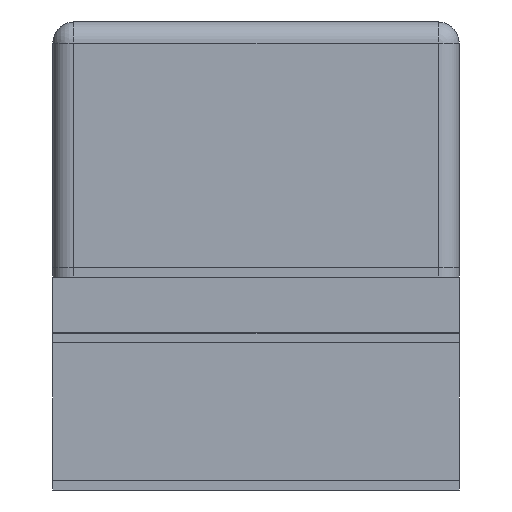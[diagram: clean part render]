
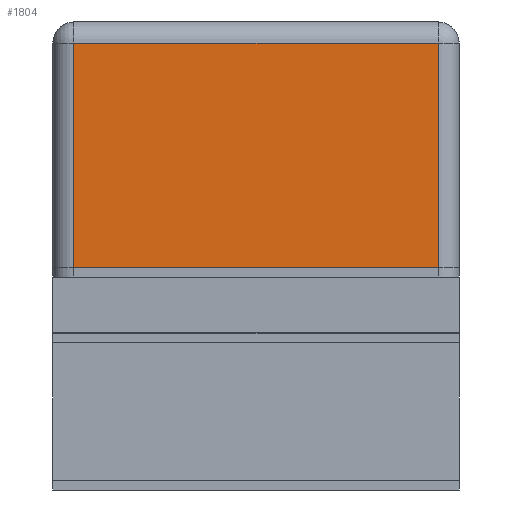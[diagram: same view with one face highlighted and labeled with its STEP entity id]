
A CAD part, left-side view. The second image highlights one B-rep face of the part: STEP entity #1804.
In plain terms, the highlighted planar face has unit normal (-1, 0, 0) as drawn and (1, 0, 0) by its records, which use the part's own axes.
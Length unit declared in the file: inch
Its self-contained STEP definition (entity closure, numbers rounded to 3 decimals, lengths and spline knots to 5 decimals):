
#1015 = VECTOR ( 'NONE', #30942, 39.37008 ) ;
#1804 = ADVANCED_FACE ( 'NONE', ( #12965 ), #29227, .F. ) ;
#1833 = CARTESIAN_POINT ( 'NONE',  ( 0.05709, -0.10236, 0.1378 ) ) ;
#2458 = VECTOR ( 'NONE', #27485, 39.37008 ) ;
#3188 = VECTOR ( 'NONE', #12791, 39.37008 ) ;
#3747 = EDGE_CURVE ( 'NONE', #30617, #38112, #41099, .T. ) ;
#4954 = DIRECTION ( 'NONE',  ( 0., 1., 0. ) ) ;
#6616 = ORIENTED_EDGE ( 'NONE', *, *, #25708, .T. ) ;
#7510 = ORIENTED_EDGE ( 'NONE', *, *, #17533, .T. ) ;
#8935 = DIRECTION ( 'NONE',  ( -1., 0., 0. ) ) ;
#9727 = EDGE_CURVE ( 'NONE', #27692, #50580, #29738, .T. ) ;
#10558 = ORIENTED_EDGE ( 'NONE', *, *, #9727, .T. ) ;
#10803 = CARTESIAN_POINT ( 'NONE',  ( 0.05709, -0.10236, 0. ) ) ;
#11202 = CARTESIAN_POINT ( 'NONE',  ( 0.05709, 0.10236, 0.1378 ) ) ;
#12276 = CARTESIAN_POINT ( 'NONE',  ( 0.05709, 0.11417, 0. ) ) ;
#12791 = DIRECTION ( 'NONE',  ( 0., 1., 0. ) ) ;
#12965 = FACE_OUTER_BOUND ( 'NONE', #37003, .T. ) ;
#14707 = LINE ( 'NONE', #1833, #1015 ) ;
#17533 = EDGE_CURVE ( 'NONE', #38112, #27692, #47866, .T. ) ;
#19514 = ORIENTED_EDGE ( 'NONE', *, *, #3747, .T. ) ;
#25708 = EDGE_CURVE ( 'NONE', #50580, #30617, #14707, .T. ) ;
#27485 = DIRECTION ( 'NONE',  ( 0., 0., 1. ) ) ;
#27692 = VERTEX_POINT ( 'NONE', #36786 ) ;
#29227 = PLANE ( 'NONE',  #35397 ) ;
#29738 = LINE ( 'NONE', #49874, #39536 ) ;
#30617 = VERTEX_POINT ( 'NONE', #10803 ) ;
#30942 = DIRECTION ( 'NONE',  ( 0., 0., -1. ) ) ;
#35397 = AXIS2_PLACEMENT_3D ( 'NONE', #45580, #8935, #4954 ) ;
#36786 = CARTESIAN_POINT ( 'NONE',  ( 0.05709, 0.10236, 0.12598 ) ) ;
#37003 = EDGE_LOOP ( 'NONE', ( #19514, #7510, #10558, #6616 ) ) ;
#38112 = VERTEX_POINT ( 'NONE', #38604 ) ;
#38528 = CARTESIAN_POINT ( 'NONE',  ( 0.05709, -0.10236, 0.12598 ) ) ;
#38604 = CARTESIAN_POINT ( 'NONE',  ( 0.05709, 0.10236, 0. ) ) ;
#39536 = VECTOR ( 'NONE', #42572, 39.37008 ) ;
#41099 = LINE ( 'NONE', #12276, #3188 ) ;
#42572 = DIRECTION ( 'NONE',  ( 0., -1., 0. ) ) ;
#45580 = CARTESIAN_POINT ( 'NONE',  ( 0.05709, 0.11417, 0.1378 ) ) ;
#47866 = LINE ( 'NONE', #11202, #2458 ) ;
#49874 = CARTESIAN_POINT ( 'NONE',  ( 0.05709, -0.11417, 0.12598 ) ) ;
#50580 = VERTEX_POINT ( 'NONE', #38528 ) ;
